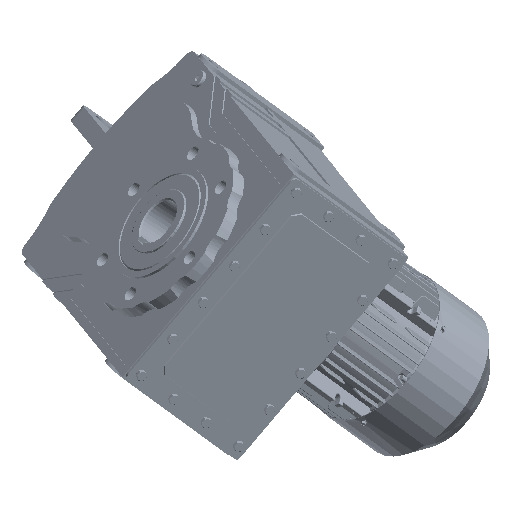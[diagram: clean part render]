
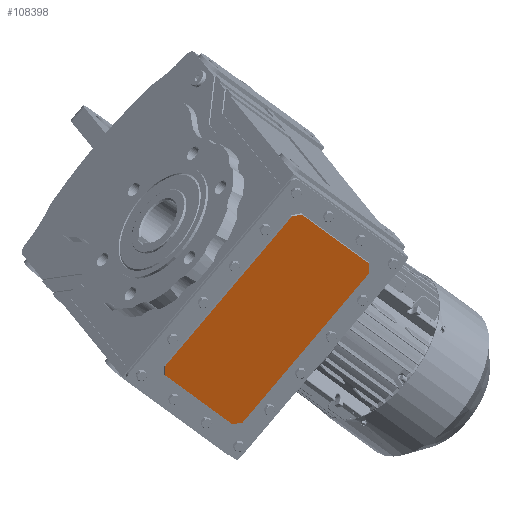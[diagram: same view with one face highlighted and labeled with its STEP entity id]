
A CAD part, left-side view. The second image highlights one B-rep face of the part: STEP entity #108398.
In plain terms, the highlighted planar face has unit normal (-0.84, -0.343, -0.42) as drawn and (0, -1, 0) by its records, which use the part's own axes.
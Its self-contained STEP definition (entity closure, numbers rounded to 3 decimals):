
#4769 = ORIENTED_EDGE ( 'NONE', *, *, #83934, .F. ) ;
#4775 = ORIENTED_EDGE ( 'NONE', *, *, #83949, .F. ) ;
#4797 = ORIENTED_EDGE ( 'NONE', *, *, #83908, .F. ) ;
#4887 = ORIENTED_EDGE ( 'NONE', *, *, #83847, .F. ) ;
#30280 = DIRECTION ( 'NONE',  ( 0., 0., 1. ) ) ;
#30295 = CARTESIAN_POINT ( 'NONE',  ( -107.964, -115., -149. ) ) ;
#30369 = DIRECTION ( 'NONE',  ( 0., 0., -1. ) ) ;
#30380 = CARTESIAN_POINT ( 'NONE',  ( 107.964, -115., -149. ) ) ;
#30394 = DIRECTION ( 'NONE',  ( -1., 0., 0. ) ) ;
#30404 = CARTESIAN_POINT ( 'NONE',  ( -108.121, -115., -49.379 ) ) ;
#30410 = DIRECTION ( 'NONE',  ( 0.707, 0., 0.707 ) ) ;
#30416 = CARTESIAN_POINT ( 'NONE',  ( 100.5, -115., -156.464 ) ) ;
#30439 = CARTESIAN_POINT ( 'NONE',  ( 100.121, -115., -156.621 ) ) ;
#30446 = DIRECTION ( 'NONE',  ( -0.707, 0., -0.707 ) ) ;
#30448 = DIRECTION ( 'NONE',  ( 1., 0., 0. ) ) ;
#30457 = CARTESIAN_POINT ( 'NONE',  ( 100.5, -115., -41.536 ) ) ;
#30501 = CARTESIAN_POINT ( 'NONE',  ( 108.121, -115., -49.379 ) ) ;
#30502 = DIRECTION ( 'NONE',  ( 0.707, 0., -0.707 ) ) ;
#32707 = CARTESIAN_POINT ( 'NONE',  ( -100.121, -115., -156.621 ) ) ;
#32715 = DIRECTION ( 'NONE',  ( -0.707, 0., 0.707 ) ) ;
#71186 = VERTEX_POINT ( 'NONE', #166233 ) ;
#71193 = VERTEX_POINT ( 'NONE', #166145 ) ;
#71217 = VERTEX_POINT ( 'NONE', #166085 ) ;
#71238 = VERTEX_POINT ( 'NONE', #166111 ) ;
#71245 = VERTEX_POINT ( 'NONE', #166120 ) ;
#71297 = VERTEX_POINT ( 'NONE', #166333 ) ;
#71306 = VERTEX_POINT ( 'NONE', #166278 ) ;
#71312 = VERTEX_POINT ( 'NONE', #166408 ) ;
#83847 = EDGE_CURVE ( 'NONE', #71312, #71245, #172955, .T. ) ;
#83908 = EDGE_CURVE ( 'NONE', #71186, #71306, #172920, .T. ) ;
#83925 = EDGE_CURVE ( 'NONE', #71193, #71297, #172977, .T. ) ;
#83934 = EDGE_CURVE ( 'NONE', #71245, #71217, #172880, .T. ) ;
#83949 = EDGE_CURVE ( 'NONE', #71306, #71193, #172892, .T. ) ;
#83955 = EDGE_CURVE ( 'NONE', #71217, #71238, #172985, .T. ) ;
#84005 = EDGE_CURVE ( 'NONE', #71238, #71186, #173015, .T. ) ;
#84020 = EDGE_CURVE ( 'NONE', #71297, #71312, #173152, .T. ) ;
#91373 = EDGE_LOOP ( 'NONE', ( #4769, #4887, #114427, #114506, #4775, #4797, #114507, #113432 ) ) ;
#108398 = ADVANCED_FACE ( 'NONE', ( #209096 ), #152045, .T. ) ;
#113432 = ORIENTED_EDGE ( 'NONE', *, *, #83955, .F. ) ;
#114427 = ORIENTED_EDGE ( 'NONE', *, *, #84020, .F. ) ;
#114506 = ORIENTED_EDGE ( 'NONE', *, *, #83925, .F. ) ;
#114507 = ORIENTED_EDGE ( 'NONE', *, *, #84005, .F. ) ;
#152024 = CARTESIAN_POINT ( 'NONE',  ( -40., -115., -129. ) ) ;
#152045 = PLANE ( 'NONE',  #155807 ) ;
#152050 = DIRECTION ( 'NONE',  ( 0., -1., 0. ) ) ;
#152053 = DIRECTION ( 'NONE',  ( 1., 0., 0. ) ) ;
#155807 = AXIS2_PLACEMENT_3D ( 'NONE', #152024, #152050, #152053 ) ;
#166085 = CARTESIAN_POINT ( 'NONE',  ( -100.278, -115., -41.536 ) ) ;
#166111 = CARTESIAN_POINT ( 'NONE',  ( 100.278, -115., -41.536 ) ) ;
#166120 = CARTESIAN_POINT ( 'NONE',  ( -107.964, -115., -49.222 ) ) ;
#166145 = CARTESIAN_POINT ( 'NONE',  ( 100.278, -115., -156.464 ) ) ;
#166233 = CARTESIAN_POINT ( 'NONE',  ( 107.964, -115., -49.222 ) ) ;
#166278 = CARTESIAN_POINT ( 'NONE',  ( 107.964, -115., -148.778 ) ) ;
#166333 = CARTESIAN_POINT ( 'NONE',  ( -100.278, -115., -156.464 ) ) ;
#166408 = CARTESIAN_POINT ( 'NONE',  ( -107.964, -115., -148.778 ) ) ;
#172777 = VECTOR ( 'NONE', #30410, 1000. ) ;
#172816 = VECTOR ( 'NONE', #30394, 1000. ) ;
#172880 = LINE ( 'NONE', #30404, #172777 ) ;
#172892 = LINE ( 'NONE', #30439, #172999 ) ;
#172920 = LINE ( 'NONE', #30380, #172959 ) ;
#172955 = LINE ( 'NONE', #30295, #172963 ) ;
#172959 = VECTOR ( 'NONE', #30369, 1000. ) ;
#172963 = VECTOR ( 'NONE', #30280, 1000. ) ;
#172977 = LINE ( 'NONE', #30416, #172816 ) ;
#172985 = LINE ( 'NONE', #30457, #173044 ) ;
#172999 = VECTOR ( 'NONE', #30446, 1000. ) ;
#173015 = LINE ( 'NONE', #30501, #173139 ) ;
#173044 = VECTOR ( 'NONE', #30448, 1000. ) ;
#173139 = VECTOR ( 'NONE', #30502, 1000. ) ;
#173152 = LINE ( 'NONE', #32707, #173218 ) ;
#173218 = VECTOR ( 'NONE', #32715, 1000. ) ;
#209096 = FACE_OUTER_BOUND ( 'NONE', #91373, .T. ) ;
